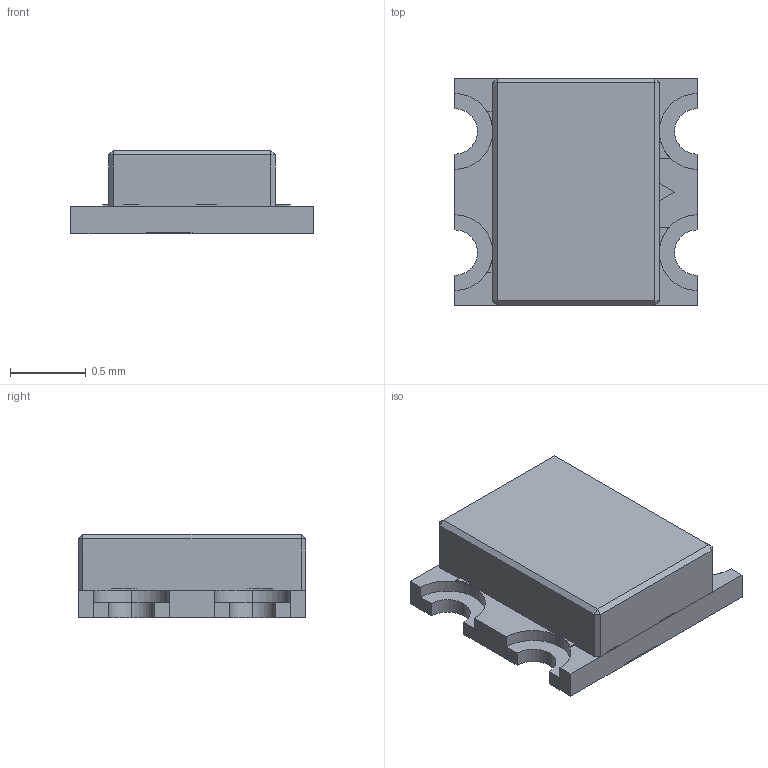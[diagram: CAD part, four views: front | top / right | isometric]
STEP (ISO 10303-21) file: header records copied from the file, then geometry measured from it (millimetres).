
FILE_DESCRIPTION (( 'STEP AP214' ), '1' );
FILE_NAME ('User Library-LED_0605-1.STEP', '2020-03-27T14:44:31', ( '' ), ( '' ), 'SwSTEP 2.0', 'SolidWorks 2019', '' );
FILE_SCHEMA (( 'AUTOMOTIVE_DESIGN' ));
Length unit declared in the file: millimetre
Products named in the file (4): COMPOUND; DIODE; PAD; User Library-LED_0605-1
Assembly tree (3 placements, depth 2):
  User Library-LED_0605-1
    PAD
    COMPOUND
    DIODE
Bounding box: 1.6 x 1.5 x 0.55 mm (x, y, z)
Volume: 1 mm3; surface area: 15.8 mm2
Topology: 8 solids, 23 shells, 255 faces, 660 edges, 438 vertices
Faces by surface type: plane 165, cylinder 52, bspline 38
Entity records: 20715 total; most frequent: CARTESIAN_POINT 11714, ORIENTED_EDGE 1294, DIRECTION 1071, EDGE_CURVE 660, VERTEX_POINT 438, LINE 427, VECTOR 427, AXIS2_PLACEMENT_3D 322
